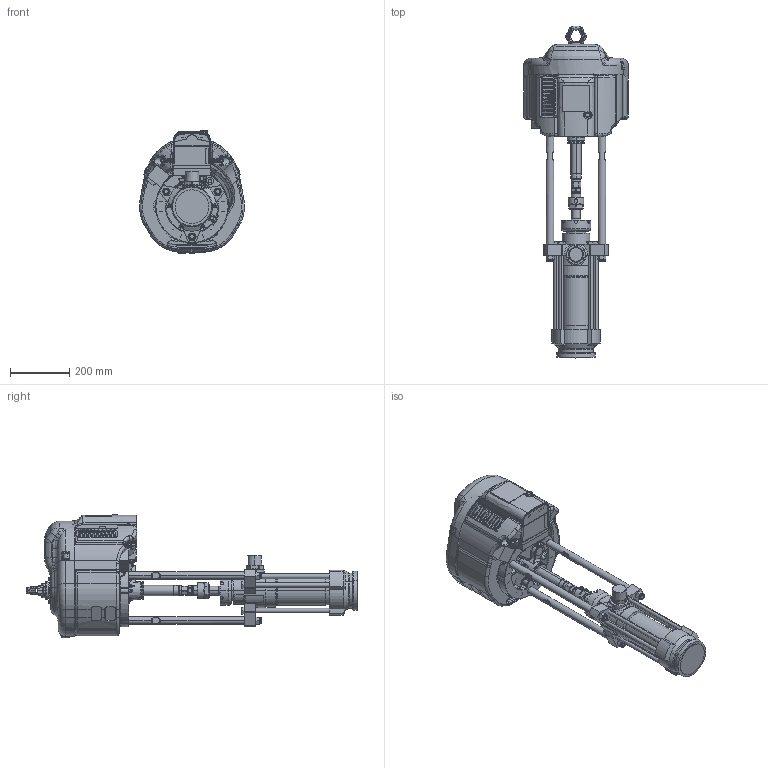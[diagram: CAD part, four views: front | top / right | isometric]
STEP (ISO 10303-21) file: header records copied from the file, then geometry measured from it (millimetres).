
FILE_DESCRIPTION((''),'2;1');
FILE_NAME('P06LCK-EN-ZAA_PRT','2023-11-07T14:43:30',('qtmwp1'),(''),'CREO PARAMETRIC BY PTC INC, 2021072','CREO PARAMETRIC BY PTC INC, 2021072','');
FILE_SCHEMA(('CONFIG_CONTROL_DESIGN'));
Products named in the file (1): P06LCK-EN-ZAA_PRT
Bounding box: 355.4 x 1124.03 x 417.43 mm (x, y, z)
Surface area: 2521105.2 mm2 (no closed solid volume)
Topology: 0 solids, 539 shells, 2703 faces, 11924 edges, 9330 vertices
Faces by surface type: cylinder 789, plane 725, bspline 445, torus 395, cone 333, sphere 16
Entity records: 162219 total; most frequent: CARTESIAN_POINT 80071, ORIENTED_EDGE 15720, DIRECTION 14074, EDGE_CURVE 11916, VERTEX_POINT 9330, B_SPLINE_CURVE_WITH_KNOTS 5543, AXIS2_PLACEMENT_3D 5443, VECTOR 3188
